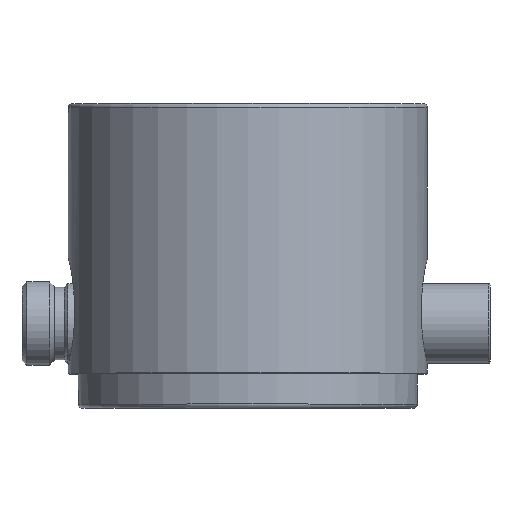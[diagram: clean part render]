
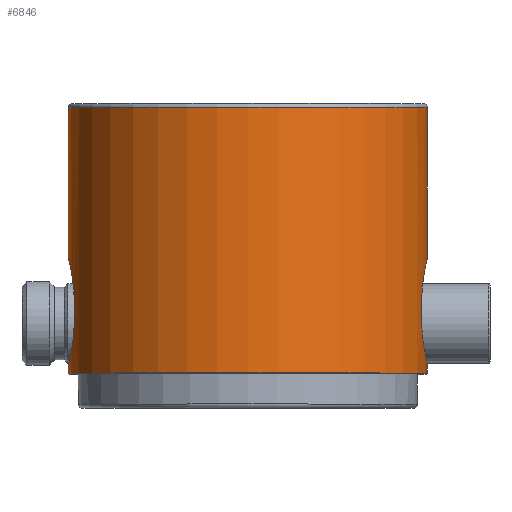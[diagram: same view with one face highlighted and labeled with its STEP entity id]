
A CAD part, top view. The second image highlights one B-rep face of the part: STEP entity #6846.
In plain terms, the highlighted cylindrical face has radius 44.5 mm (diameter 89 mm), a partial arc.
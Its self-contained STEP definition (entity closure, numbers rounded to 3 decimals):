
#5848=CARTESIAN_POINT('',(0.,0.2,0.));
#5849=DIRECTION('',(0.,-1.,0.));
#5850=DIRECTION('',(1.,0.,0.));
#5851=AXIS2_PLACEMENT_3D('',#5848,#5849,#5850);
#5853=CARTESIAN_POINT('',(-43.054,13.5,11.251));
#5854=CARTESIAN_POINT('',(-43.054,12.781,11.251));
#5855=CARTESIAN_POINT('',(-43.091,11.349,11.113));
#5856=CARTESIAN_POINT('',(-43.251,9.235,10.482));
#5857=CARTESIAN_POINT('',(-43.493,7.274,9.441));
#5858=CARTESIAN_POINT('',(-43.783,5.532,8.013));
#5859=CARTESIAN_POINT('',(-44.07,4.111,6.269));
#5860=CARTESIAN_POINT('',(-44.309,3.066,4.288));
#5861=CARTESIAN_POINT('',(-44.465,2.435,2.152));
#5862=CARTESIAN_POINT('',(-44.5,2.3,
0.72));
#5863=CARTESIAN_POINT('',(-44.5,2.3,0.));
#5865=DIRECTION('',(0.,-1.,0.));
#5866=VECTOR('',#5865,4.);
#5867=CARTESIAN_POINT('',(-43.054,17.5,11.251));
#5868=LINE('',#5867,#5866);
#5869=CARTESIAN_POINT('',(-44.5,28.7,0.));
#5870=CARTESIAN_POINT('',(-44.5,28.7,
0.727));
#5871=CARTESIAN_POINT('',(-44.464,28.561,2.179));
#5872=CARTESIAN_POINT('',(-44.307,27.924,4.311));
#5873=CARTESIAN_POINT('',(-44.067,26.879,6.285));
#5874=CARTESIAN_POINT('',(-43.779,25.45,8.032));
#5875=CARTESIAN_POINT('',(-43.491,23.71,9.451));
#5876=CARTESIAN_POINT('',(-43.248,21.741,10.493));
#5877=CARTESIAN_POINT('',(-43.089,19.62,11.118));
#5878=CARTESIAN_POINT('',(-43.054,18.21,11.251));
#5879=CARTESIAN_POINT('',(-43.054,17.5,11.251));
#5881=CARTESIAN_POINT('',(0.,66.,0.));
#5882=DIRECTION('',(0.,-1.,0.));
#5883=DIRECTION('',(1.,0.,0.));
#5884=AXIS2_PLACEMENT_3D('',#5881,#5882,#5883);
#5886=CARTESIAN_POINT('',(43.054,17.5,11.251));
#5887=CARTESIAN_POINT('',(43.054,18.219,11.251));
#5888=CARTESIAN_POINT('',(43.091,19.652,11.113));
#5889=CARTESIAN_POINT('',(43.251,21.765,10.481));
#5890=CARTESIAN_POINT('',(43.493,23.727,9.441));
#5891=CARTESIAN_POINT('',(43.783,25.468,8.013));
#5892=CARTESIAN_POINT('',(44.07,26.889,6.269));
#5893=CARTESIAN_POINT('',(44.309,27.935,4.287));
#5894=CARTESIAN_POINT('',(44.465,28.565,2.151));
#5895=CARTESIAN_POINT('',(44.5,28.7,0.72));
#5896=CARTESIAN_POINT('',(44.5,28.7,0.));
#5898=DIRECTION('',(0.,1.,0.));
#5899=VECTOR('',#5898,4.);
#5900=CARTESIAN_POINT('',(43.054,13.5,11.251));
#5901=LINE('',#5900,#5899);
#5902=CARTESIAN_POINT('',(44.5,2.3,0.));
#5903=CARTESIAN_POINT('',(44.5,2.3,0.727));
#5904=CARTESIAN_POINT('',(44.464,2.439,2.179));
#5905=CARTESIAN_POINT('',(44.307,3.076,4.312));
#5906=CARTESIAN_POINT('',(44.067,4.122,6.285));
#5907=CARTESIAN_POINT('',(43.779,5.551,8.032));
#5908=CARTESIAN_POINT('',(43.491,7.29,9.452));
#5909=CARTESIAN_POINT('',(43.248,9.26,10.493));
#5910=CARTESIAN_POINT('',(43.089,11.381,11.118));
#5911=CARTESIAN_POINT('',(43.054,12.79,11.251));
#5912=CARTESIAN_POINT('',(43.054,13.5,11.251));
#5919=DIRECTION('',(0.,-1.,0.));
#5920=VECTOR('',#5919,2.1);
#5921=CARTESIAN_POINT('',(44.5,2.3,0.));
#5922=LINE('',#5921,#5920);
#5933=CARTESIAN_POINT('',(44.5,2.3,0.));
#5939=CARTESIAN_POINT('',(44.5,28.7,0.));
#5951=DIRECTION('',(0.,-1.,0.));
#5952=VECTOR('',#5951,37.3);
#5953=CARTESIAN_POINT('',(44.5,66.,0.));
#5954=LINE('',#5953,#5952);
#5960=DIRECTION('',(0.,-1.,0.));
#5961=VECTOR('',#5960,37.3);
#5962=CARTESIAN_POINT('',(-44.5,66.,0.));
#5963=LINE('',#5962,#5961);
#5974=CARTESIAN_POINT('',(-44.5,28.7,0.));
#5992=DIRECTION('',(0.,-1.,0.));
#5993=VECTOR('',#5992,2.1);
#5994=CARTESIAN_POINT('',(-44.5,2.3,0.));
#5995=LINE('',#5994,#5993);
#6648=CARTESIAN_POINT('',(-44.5,0.2,0.));
#6649=CARTESIAN_POINT('',(44.5,0.2,0.));
#6650=VERTEX_POINT('',#6648);
#6651=VERTEX_POINT('',#6649);
#6671=VERTEX_POINT('',#5974);
#6674=VERTEX_POINT('',#5879);
#6678=CARTESIAN_POINT('',(-43.054,13.5,11.251));
#6679=VERTEX_POINT('',#6678);
#6680=VERTEX_POINT('',#5939);
#6684=VERTEX_POINT('',#5886);
#6686=CARTESIAN_POINT('',(43.054,13.5,11.251));
#6687=VERTEX_POINT('',#6686);
#6712=CARTESIAN_POINT('',(44.5,66.,0.));
#6713=CARTESIAN_POINT('',(-44.5,66.,0.));
#6714=VERTEX_POINT('',#6712);
#6715=VERTEX_POINT('',#6713);
#6724=VERTEX_POINT('',#5933);
#6734=VERTEX_POINT('',#5863);
#6816=CARTESIAN_POINT('',(0.,-3.35,0.));
#6817=DIRECTION('',(0.,1.,0.));
#6818=DIRECTION('',(1.,0.,0.));
#6819=AXIS2_PLACEMENT_3D('',#6816,#6817,#6818);
#6820=CYLINDRICAL_SURFACE('',#6819,44.5);
#6821=ORIENTED_EDGE('',*,*,#6810,.T.);
#6823=ORIENTED_EDGE('',*,*,#6822,.F.);
#6825=ORIENTED_EDGE('',*,*,#6824,.F.);
#6827=ORIENTED_EDGE('',*,*,#6826,.F.);
#6829=ORIENTED_EDGE('',*,*,#6828,.F.);
#6831=ORIENTED_EDGE('',*,*,#6830,.F.);
#6833=ORIENTED_EDGE('',*,*,#6832,.F.);
#6835=ORIENTED_EDGE('',*,*,#6834,.T.);
#6837=ORIENTED_EDGE('',*,*,#6836,.F.);
#6839=ORIENTED_EDGE('',*,*,#6838,.F.);
#6841=ORIENTED_EDGE('',*,*,#6840,.F.);
#6843=ORIENTED_EDGE('',*,*,#6842,.T.);
#6844=EDGE_LOOP('',(#6821,#6823,#6825,#6827,#6829,#6831,#6833,#6835,#6837,#6839,
#6841,#6843));
#6845=FACE_OUTER_BOUND('',#6844,.F.);
#6846=ADVANCED_FACE('',(#6845),#6820,.T.);
#5852=CIRCLE('',#5851,44.5);
#5864=B_SPLINE_CURVE_WITH_KNOTS('',3,(#5853,#5854,#5855,#5856,#5857,#5858,#5859,
#5860,#5861,#5862,#5863),.UNSPECIFIED.,.F.,.F.,(4,1,1,1,1,1,1,1,4),(0.,
0.125,0.25,0.375,0.5,
0.625,0.75,0.875,1.),.UNSPECIFIED.);
#5880=B_SPLINE_CURVE_WITH_KNOTS('',3,(#5869,#5870,#5871,#5872,#5873,#5874,#5875,
#5876,#5877,#5878,#5879),.UNSPECIFIED.,.F.,.F.,(4,1,1,1,1,1,1,1,4),(0.,
0.125,0.25,0.375,0.5,
0.625,0.75,0.875,1.),.UNSPECIFIED.);
#5885=CIRCLE('',#5884,44.5);
#5897=B_SPLINE_CURVE_WITH_KNOTS('',3,(#5886,#5887,#5888,#5889,#5890,#5891,#5892,
#5893,#5894,#5895,#5896),.UNSPECIFIED.,.F.,.F.,(4,1,1,1,1,1,1,1,4),(0.,
0.125,0.25,0.375,0.5,
0.625,0.75,0.875,1.),.UNSPECIFIED.);
#5913=B_SPLINE_CURVE_WITH_KNOTS('',3,(#5902,#5903,#5904,#5905,#5906,#5907,#5908,
#5909,#5910,#5911,#5912),.UNSPECIFIED.,.F.,.F.,(4,1,1,1,1,1,1,1,4),(0.,
0.125,0.25,0.375,0.5,
0.625,0.75,0.875,1.),.UNSPECIFIED.);
#6810=EDGE_CURVE('',#6651,#6650,#5852,.T.);
#6822=EDGE_CURVE('',#6734,#6650,#5995,.T.);
#6824=EDGE_CURVE('',#6679,#6734,#5864,.T.);
#6826=EDGE_CURVE('',#6674,#6679,#5868,.T.);
#6828=EDGE_CURVE('',#6671,#6674,#5880,.T.);
#6830=EDGE_CURVE('',#6715,#6671,#5963,.T.);
#6832=EDGE_CURVE('',#6714,#6715,#5885,.T.);
#6834=EDGE_CURVE('',#6714,#6680,#5954,.T.);
#6836=EDGE_CURVE('',#6684,#6680,#5897,.T.);
#6838=EDGE_CURVE('',#6687,#6684,#5901,.T.);
#6840=EDGE_CURVE('',#6724,#6687,#5913,.T.);
#6842=EDGE_CURVE('',#6724,#6651,#5922,.T.);
